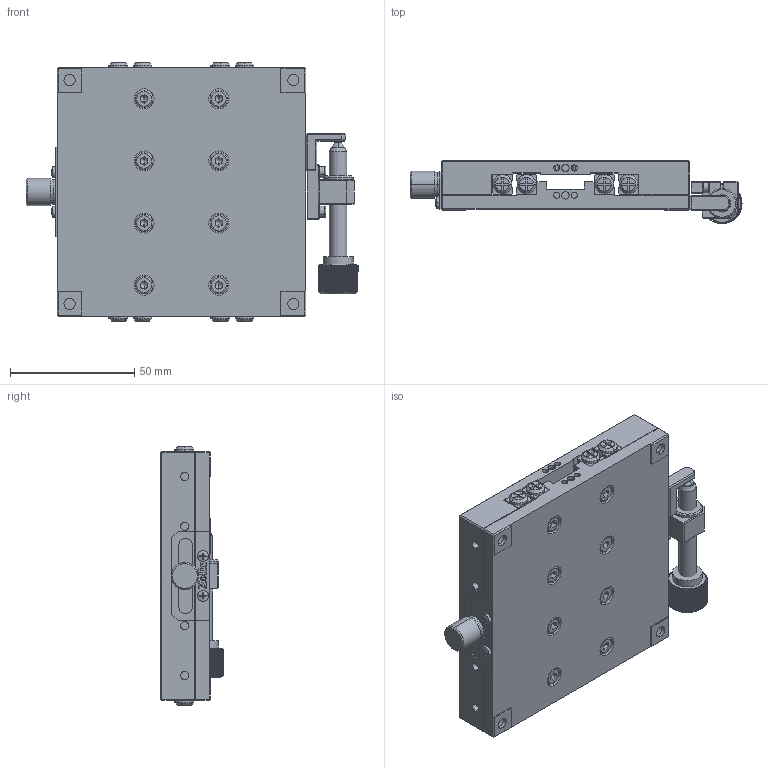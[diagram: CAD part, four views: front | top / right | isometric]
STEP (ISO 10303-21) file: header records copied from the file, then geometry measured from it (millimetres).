
FILE_DESCRIPTION (( 'STEP AP203' ), '1' );
FILE_NAME ('AK25-10020LZ.step', '2019-05-08T06:35:06', ( '' ), ( '' ), 'SwSTEP 2.0', 'SolidWorks 2017', '' );
FILE_SCHEMA (( 'CONFIG_CONTROL_DESIGN' ));
Length unit declared in the file: millimetre
Products named in the file (1): AK25-10020LZ
Bounding box: 133.5 x 25.2 x 104 mm (x, y, z)
Surface area: 71313.9 mm2 (no closed solid volume)
Topology: 0 solids, 46 shells, 1286 faces, 3955 edges, 2585 vertices
Faces by surface type: plane 763, cylinder 304, cone 171, torus 42, sphere 6
Entity records: 44572 total; most frequent: CARTESIAN_POINT 10085, DIRECTION 7064, ORIENTED_EDGE 6772, EDGE_CURVE 3917, VERTEX_POINT 2585, AXIS2_PLACEMENT_3D 2420, LINE 2224, VECTOR 2224
